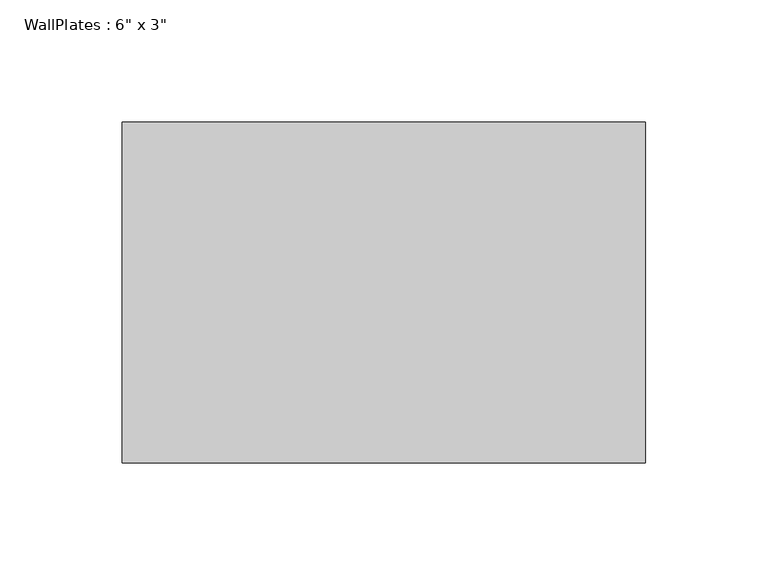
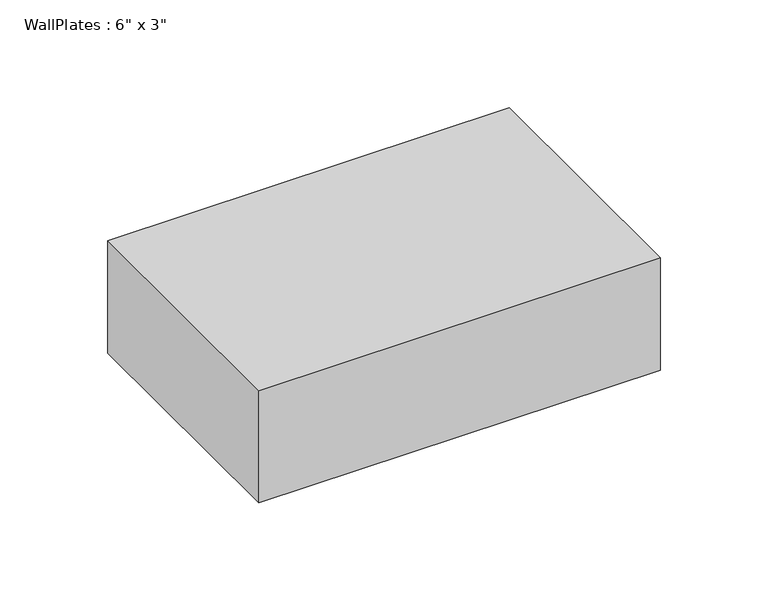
"""IFC4 building model written with IfcOpenShell, lengths in millimetres: beam geometry."""

from ifc_helpers import new_model, si_unit, frame, origin, place, context, project, spatial, polyline, outline, extrude, source, transform, mapped, element, save


def beam_63272fa4(model_context):
    return source(origin(), model_context, "Body", "SweptSolid", [
        extrude(outline(polyline([(-107.3175, -69.85), (-107.3175, 69.85), (107.3175, 69.85), (107.3175, -69.85), (-107.3175, -69.85)])), frame((0.0, 0.0, -31.75), z_axis=(0.0, 0.0, 1.0), x_axis=(1.0, 0.0, 0.0)), (0.0, 0.0, 1.0), 63.5),
    ])


if __name__ == "__main__":
    model = new_model("IFC4")
    model_context = context("Model", 3, world=origin())
    ifc_project = project(units=[si_unit("LENGTHUNIT", "METRE", prefix="MILLI")], contexts=[model_context])
    site = spatial("IfcSite", under=ifc_project)
    building = spatial("IfcBuilding", under=site)
    placement = place(None, origin())
    beam_shape = beam_63272fa4(model_context)
    element("IfcBeam", 1, ObjectType="WallPlates : 6\" x 3\"", at=placement, inside=building, context=model_context, shape_type="MappedRepresentation", body=[
        mapped(beam_shape, transform((0.0, 0.0, 0.0), x_axis=(1.0, 0.0, 0.0), y_axis=(0.0, 1.0, 0.0), z_axis=(0.0, 0.0, 1.0))),
    ])
    save(model, "model.ifc")
